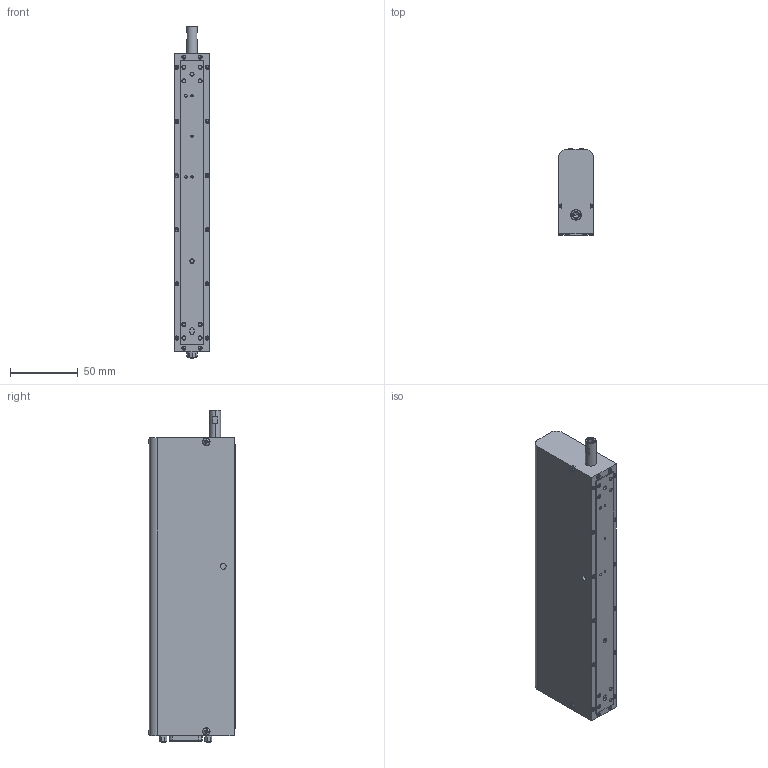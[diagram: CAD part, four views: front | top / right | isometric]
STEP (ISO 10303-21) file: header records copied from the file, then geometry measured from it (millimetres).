
FILE_DESCRIPTION (( 'STEP AP203' ), '1' );
FILE_NAME ('LDL25C-050-YY-6F.STEP', '2021-08-31T16:14:37', ( '' ), ( '' ), 'SwSTEP 2.0', 'SolidWorks 2020', '' );
FILE_SCHEMA (( 'CONFIG_CONTROL_DESIGN' ));
Products named in the file (1): LDL25C-050-YY-6F
Bounding box: 25.86 x 64.1 x 245.26 mm (x, y, z)
Volume: 350694.3 mm3; surface area: 45098.2 mm2
Topology: 1 solids, 37 shells, 2300 faces, 6356 edges, 4151 vertices
Faces by surface type: plane 642, cone 551, bspline 430, cylinder 397, torus 272, sphere 8
Entity records: 93536 total; most frequent: CARTESIAN_POINT 40060, ORIENTED_EDGE 12660, DIRECTION 9101, EDGE_CURVE 6330, VERTEX_POINT 4151, AXIS2_PLACEMENT_3D 3646, B_SPLINE_CURVE_WITH_KNOTS 2658, EDGE_LOOP 2503
